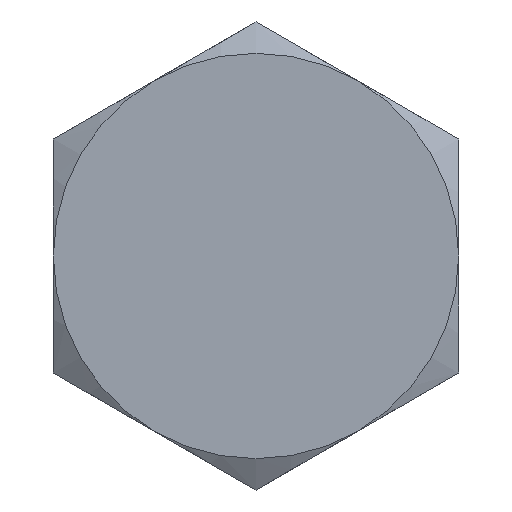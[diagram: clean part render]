
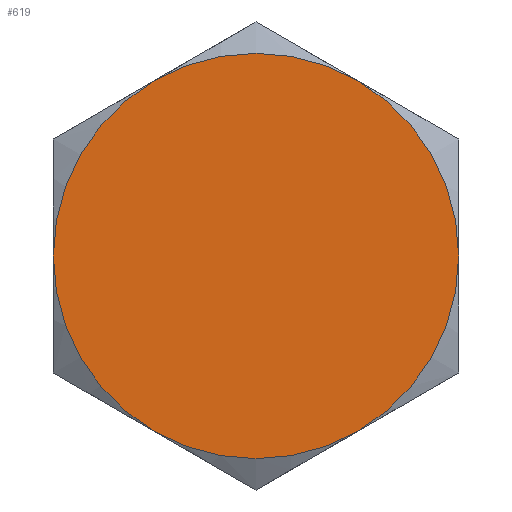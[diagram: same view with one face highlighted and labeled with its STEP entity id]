
A CAD part, left-side view. The second image highlights one B-rep face of the part: STEP entity #619.
In plain terms, the highlighted planar face has unit normal (-1, 0, 0).
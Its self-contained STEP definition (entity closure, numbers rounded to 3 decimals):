
#169=CARTESIAN_POINT('',(0.,0.,0.));
#170=DIRECTION('',(1.,0.,0.));
#171=DIRECTION('',(0.,1.,0.));
#172=AXIS2_PLACEMENT_3D('',#169,#170,#171);
#174=CARTESIAN_POINT('',(0.,0.,0.));
#175=DIRECTION('',(1.,0.,0.));
#176=DIRECTION('',(0.,0.5,0.866));
#177=AXIS2_PLACEMENT_3D('',#174,#175,#176);
#179=CARTESIAN_POINT('',(0.,0.,0.));
#180=DIRECTION('',(1.,0.,0.));
#181=DIRECTION('',(0.,-0.5,0.866));
#182=AXIS2_PLACEMENT_3D('',#179,#180,#181);
#184=CARTESIAN_POINT('',(0.,0.,0.));
#185=DIRECTION('',(1.,0.,0.));
#186=DIRECTION('',(0.,-1.,0.));
#187=AXIS2_PLACEMENT_3D('',#184,#185,#186);
#189=CARTESIAN_POINT('',(0.,0.,0.));
#190=DIRECTION('',(1.,0.,0.));
#191=DIRECTION('',(0.,-0.5,-0.866));
#192=AXIS2_PLACEMENT_3D('',#189,#190,#191);
#194=CARTESIAN_POINT('',(0.,0.,0.));
#195=DIRECTION('',(1.,0.,0.));
#196=DIRECTION('',(0.,0.5,-0.866));
#197=AXIS2_PLACEMENT_3D('',#194,#195,#196);
#323=CARTESIAN_POINT('',(0.,3.5,0.));
#324=CARTESIAN_POINT('',(0.,1.75,3.031));
#325=VERTEX_POINT('',#323);
#326=VERTEX_POINT('',#324);
#327=CARTESIAN_POINT('',(0.,-1.75,3.031));
#328=VERTEX_POINT('',#327);
#329=CARTESIAN_POINT('',(0.,-3.5,0.));
#330=VERTEX_POINT('',#329);
#331=CARTESIAN_POINT('',(0.,-1.75,-3.031));
#332=VERTEX_POINT('',#331);
#333=CARTESIAN_POINT('',(0.,1.75,-3.031));
#334=VERTEX_POINT('',#333);
#603=CARTESIAN_POINT('',(0.,0.,0.));
#604=DIRECTION('',(1.,0.,0.));
#605=DIRECTION('',(0.,-1.,0.));
#606=AXIS2_PLACEMENT_3D('',#603,#604,#605);
#607=PLANE('',#606);
#608=ORIENTED_EDGE('',*,*,#568,.T.);
#609=ORIENTED_EDGE('',*,*,#581,.T.);
#610=ORIENTED_EDGE('',*,*,#594,.T.);
#612=ORIENTED_EDGE('',*,*,#611,.T.);
#614=ORIENTED_EDGE('',*,*,#613,.T.);
#616=ORIENTED_EDGE('',*,*,#615,.T.);
#617=EDGE_LOOP('',(#608,#609,#610,#612,#614,#616));
#618=FACE_OUTER_BOUND('',#617,.F.);
#619=ADVANCED_FACE('',(#618),#607,.F.);
#173=CIRCLE('',#172,3.5);
#178=CIRCLE('',#177,3.5);
#183=CIRCLE('',#182,3.5);
#188=CIRCLE('',#187,3.5);
#193=CIRCLE('',#192,3.5);
#198=CIRCLE('',#197,3.5);
#568=EDGE_CURVE('',#325,#326,#173,.T.);
#581=EDGE_CURVE('',#326,#328,#178,.T.);
#594=EDGE_CURVE('',#328,#330,#183,.T.);
#611=EDGE_CURVE('',#330,#332,#188,.T.);
#613=EDGE_CURVE('',#332,#334,#193,.T.);
#615=EDGE_CURVE('',#334,#325,#198,.T.);
